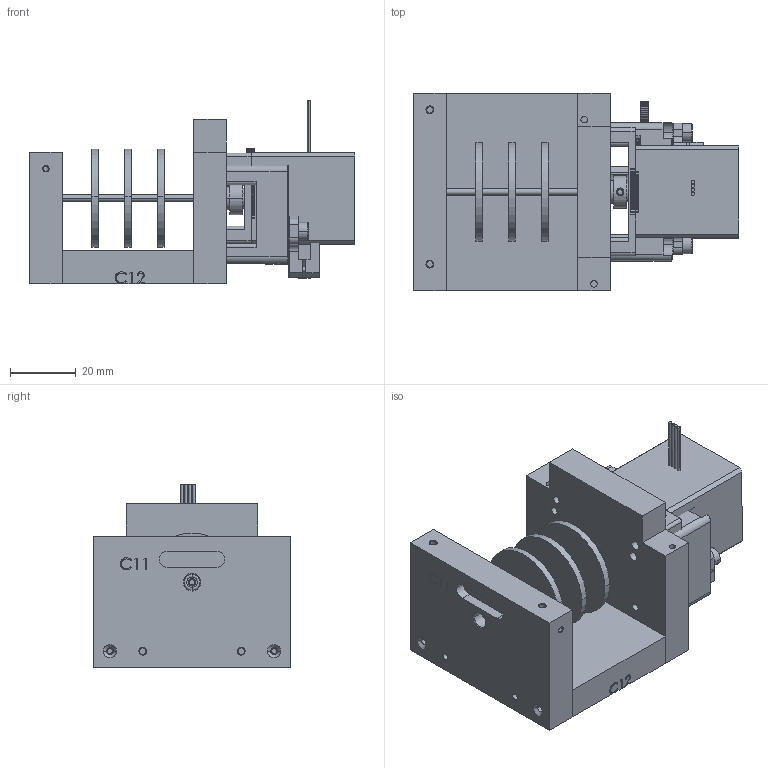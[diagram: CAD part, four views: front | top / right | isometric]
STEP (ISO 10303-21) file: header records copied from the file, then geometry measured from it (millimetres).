
FILE_DESCRIPTION (( 'STEP AP214' ), '1' );
FILE_NAME ('Assieme gruppo Down.STEP', '2016-02-27T14:49:06', ( '' ), ( '' ), 'SwSTEP 2.0', 'SolidWorks 2012', '' );
FILE_SCHEMA (( 'AUTOMOTIVE_DESIGN' ));
Length unit declared in the file: millimetre
Products named in the file (28): motore pamoco serie28; Assieme riduttore nanotec; raccordo motore trascinato; alberino D-N-S; spur gear_iso_ISO - Spur gear 0.3M 25T 20PA 2.5FW ---S25A75H50L3.0N; radial ball bearing_68_skf_SKF - 623 - 8,SI,NC,8_68; spur gear_iso_ISO - Spur gear 0.3M 20T 20PA 2.5FW ---S20A75H50L2.0N; Assieme mot Pamoco e flangia; spur gear_iso_ISO - Spur gear 0.3M 75T 20PA 2.5FW ---S75A75H50L4.0N; instrument ball bearing_68_am_AFBMA 12.1.4.1 - 0020-6 - 8,SI,NC,8_68; ass SOT dis_mot ceramici; pernetto rinvio; pernetto centrale; flngia pamoco; spur gear_iso_ISO - Spur gear 0.3M 100T 20PA 2.5FW ---S100A75H50L4.0N; vite M3 x 7; Welle_STF2818X0504; Endplatte_STF2818X0504; Stator_STF2818X0504; Frontplatte_STF2818X0504; C23; platina riduttore_2; ISO 7046-1 Z M1,6 x 8 - 4.8 - Z; motore step STF2818X0504; C18_N; C12_N; C11; Assieme gruppo Down
Assembly tree (36 placements, depth 4):
  Assieme gruppo Down
    C11
    C12_N
    C18_N
    Assieme riduttore nanotec
      motore step STF2818X0504
        Frontplatte_STF2818X0504
        Stator_STF2818X0504
        Endplatte_STF2818X0504
        Welle_STF2818X0504
        ISO 7046-1 Z M1,6 x 8 - 4.8 - Z  x4
      radial ball bearing_68_skf_SKF - 623 - 8,SI,NC,8_68  x2
      pernetto centrale
      instrument ball bearing_68_am_AFBMA 12.1.4.1 - 0020-6 - 8,SI,NC,8_68
      pernetto rinvio
      vite M3 x 7  x2
      spur gear_iso_ISO - Spur gear 0.3M 75T 20PA 2.5FW ---S75A75H50L4.0N
      spur gear_iso_ISO - Spur gear 0.3M 20T 20PA 2.5FW ---S20A75H50L2.0N
      spur gear_iso_ISO - Spur gear 0.3M 100T 20PA 2.5FW ---S100A75H50L4.0N
      spur gear_iso_ISO - Spur gear 0.3M 25T 20PA 2.5FW ---S25A75H50L3.0N
      platina riduttore_2
    ass SOT dis_mot ceramici
      C23  x3
      alberino D-N-S
    instrument ball bearing_68_am_AFBMA 12.1.4.1 - 0020-6 - 8,SI,NC,8_68  x2
    Assieme mot Pamoco e flangia
      flngia pamoco
      motore pamoco serie28
    raccordo motore trascinato
Bounding box: 99 x 60 x 55.8 mm (x, y, z)
Volume: 128440.1 mm3; surface area: 55944.1 mm2
Topology: 33 solids, 33 shells, 2114 faces, 5707 edges, 3712 vertices
Faces by surface type: cylinder 1282, plane 458, cone 223, bspline 91, torus 60
Entity records: 70977 total; most frequent: CARTESIAN_POINT 18441, DIRECTION 11011, ORIENTED_EDGE 10036, EDGE_CURVE 5018, AXIS2_PLACEMENT_3D 4424, VERTEX_POINT 3280, CIRCLE 2621, LINE 2163
